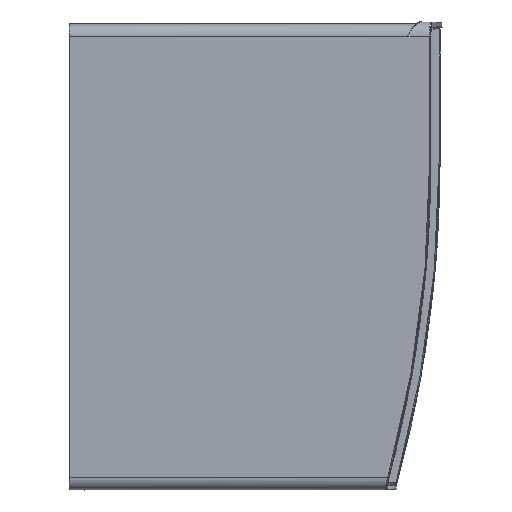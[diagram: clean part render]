
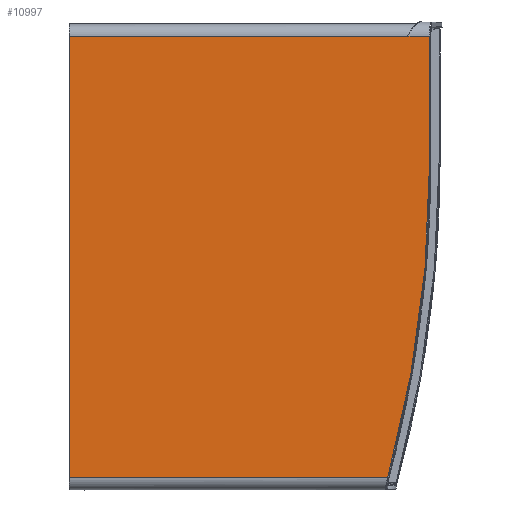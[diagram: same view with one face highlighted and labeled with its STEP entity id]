
A CAD part, left-side view. The second image highlights one B-rep face of the part: STEP entity #10997.
In plain terms, the highlighted planar face has unit normal (-1, 0, 0).
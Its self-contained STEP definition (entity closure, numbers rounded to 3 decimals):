
#1033=PLANE('',#23356);
#1350=FACE_OUTER_BOUND('',#12182,.T.);
#3229=LINE('',#36396,#4526);
#3267=LINE('',#36522,#4564);
#3302=LINE('',#36893,#4599);
#3303=LINE('',#36897,#4600);
#3304=LINE('',#36899,#4601);
#4526=VECTOR('',#25479,1.);
#4564=VECTOR('',#25553,1.);
#4599=VECTOR('',#25636,1.);
#4600=VECTOR('',#25639,1.);
#4601=VECTOR('',#25640,1.);
#10997=ADVANCED_FACE('',(#1350),#1033,.F.);
#12182=EDGE_LOOP('',(#13714,#13715,#13716,#13717,#13718,#13719));
#13714=ORIENTED_EDGE('',*,*,#19904,.T.);
#13715=ORIENTED_EDGE('',*,*,#19960,.T.);
#13716=ORIENTED_EDGE('',*,*,#20028,.F.);
#13717=ORIENTED_EDGE('',*,*,#20029,.F.);
#13718=ORIENTED_EDGE('',*,*,#20030,.F.);
#13719=ORIENTED_EDGE('',*,*,#20031,.T.);
#17388=VERTEX_POINT('',#36032);
#17392=VERTEX_POINT('',#36395);
#17447=VERTEX_POINT('',#36521);
#17505=VERTEX_POINT('',#36894);
#17506=VERTEX_POINT('',#36896);
#17507=VERTEX_POINT('',#36898);
#19904=EDGE_CURVE('',#17388,#17392,#3229,.T.);
#19960=EDGE_CURVE('',#17392,#17447,#3267,.T.);
#20028=EDGE_CURVE('',#17505,#17447,#3302,.T.);
#20029=EDGE_CURVE('',#17506,#17505,#22522,.T.);
#20030=EDGE_CURVE('',#17507,#17506,#3303,.T.);
#20031=EDGE_CURVE('',#17507,#17388,#3304,.T.);
#22522=CIRCLE('',#23355,939.837);
#23355=AXIS2_PLACEMENT_3D('',#36895,#25637,#25638);
#23356=AXIS2_PLACEMENT_3D('',#36900,#25641,#25642);
#25479=DIRECTION('',(0.,1.,0.));
#25553=DIRECTION('',(0.,0.,-1.));
#25636=DIRECTION('',(0.,1.,0.));
#25637=DIRECTION('',(1.,0.,0.));
#25638=DIRECTION('',(0.,1.,0.));
#25639=DIRECTION('',(0.,0.,-1.));
#25640=DIRECTION('',(0.,1.,0.));
#25641=DIRECTION('',(1.,0.,0.));
#25642=DIRECTION('',(0.,-1.,0.));
#36032=CARTESIAN_POINT('',(-965.,-124.088,79.431));
#36395=CARTESIAN_POINT('',(-965.,138.069,79.431));
#36396=CARTESIAN_POINT('',(-965.,138.069,79.431));
#36521=CARTESIAN_POINT('',(-965.,138.069,-263.569));
#36522=CARTESIAN_POINT('',(-965.,138.069,53.942));
#36893=CARTESIAN_POINT('',(-965.,-109.849,-263.569));
#36894=CARTESIAN_POINT('',(-965.,-109.137,-263.569));
#36895=CARTESIAN_POINT('',(-965.,798.069,-18.069));
#36896=CARTESIAN_POINT('',(-965.,-141.767,-18.069));
#36897=CARTESIAN_POINT('',(-965.,-141.767,-309.419));
#36898=CARTESIAN_POINT('',(-965.,-141.767,79.431));
#36899=CARTESIAN_POINT('',(-965.,-120.643,79.431));
#36900=CARTESIAN_POINT('',(-965.,-180.931,-309.419));
